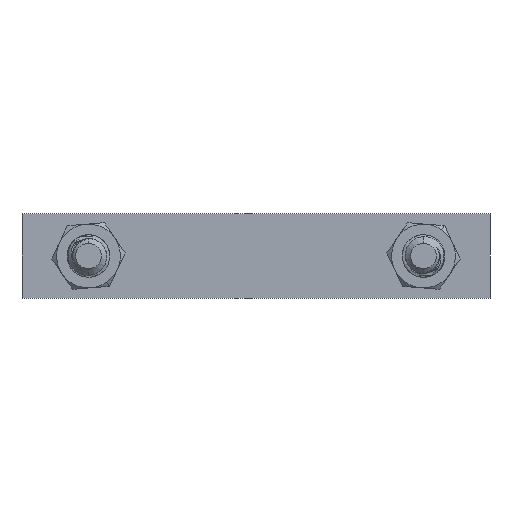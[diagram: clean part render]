
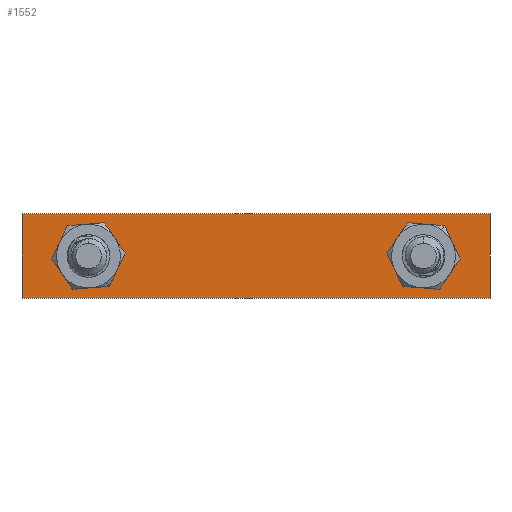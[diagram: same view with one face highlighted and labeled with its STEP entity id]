
A CAD part, front view. The second image highlights one B-rep face of the part: STEP entity #1552.
In plain terms, the highlighted planar face has unit normal (0, -1, 0).
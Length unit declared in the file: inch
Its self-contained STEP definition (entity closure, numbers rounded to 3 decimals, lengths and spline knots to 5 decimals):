
#143 = AXIS2_PLACEMENT_3D ( 'NONE', #6240, #17091, #1054 ) ;
#271 = CARTESIAN_POINT ( 'NONE',  ( 4.71875, 0.05, 0. ) ) ;
#303 = ORIENTED_EDGE ( 'NONE', *, *, #11356, .T. ) ;
#658 = ORIENTED_EDGE ( 'NONE', *, *, #2265, .T. ) ;
#1016 = ORIENTED_EDGE ( 'NONE', *, *, #16080, .T. ) ;
#1054 = DIRECTION ( 'NONE',  ( 0., 0., -1. ) ) ;
#1261 = DIRECTION ( 'NONE',  ( 0., -1., 0. ) ) ;
#1525 = VERTEX_POINT ( 'NONE', #5223 ) ;
#1552 = ADVANCED_FACE ( 'Face6', ( #5396, #6707, #10778 ), #2671, .T. ) ;
#1587 = VERTEX_POINT ( 'NONE', #5311 ) ;
#2188 = ORIENTED_EDGE ( 'NONE', *, *, #7091, .T. ) ;
#2265 = EDGE_CURVE ( 'NONE', #1587, #1525, #7836, .T. ) ;
#2286 = VERTEX_POINT ( 'NONE', #15022 ) ;
#2606 = VERTEX_POINT ( 'NONE', #3043 ) ;
#2671 = PLANE ( 'NONE',  #14956 ) ;
#2756 = LINE ( 'NONE', #5477, #7220 ) ;
#3043 = CARTESIAN_POINT ( 'NONE',  ( 4.71875, 0.05, -0.3125 ) ) ;
#3856 = ORIENTED_EDGE ( 'NONE', *, *, #11431, .F. ) ;
#3982 = DIRECTION ( 'NONE',  ( 0., 1., 0. ) ) ;
#4272 = DIRECTION ( 'NONE',  ( -1., 0., 0. ) ) ;
#4606 = CIRCLE ( 'NONE', #16428, 0.3125 ) ;
#4903 = CARTESIAN_POINT ( 'NONE',  ( 5.5, 0.05, -0.49749 ) ) ;
#4943 = VERTEX_POINT ( 'NONE', #12316 ) ;
#5223 = CARTESIAN_POINT ( 'NONE',  ( 0., 0.05, 0.49749 ) ) ;
#5311 = CARTESIAN_POINT ( 'NONE',  ( 5.5, 0.05, 0.49749 ) ) ;
#5396 = FACE_BOUND ( 'NONE', #8618, .T. ) ;
#5477 = CARTESIAN_POINT ( 'NONE',  ( 0., 0.05, 0. ) ) ;
#5513 = AXIS2_PLACEMENT_3D ( 'NONE', #12028, #9549, #8142 ) ;
#5634 = DIRECTION ( 'NONE',  ( 0., 0., 1. ) ) ;
#5892 = ORIENTED_EDGE ( 'NONE', *, *, #11636, .T. ) ;
#6240 = CARTESIAN_POINT ( 'NONE',  ( 0.78125, 0.05, 0. ) ) ;
#6510 = CARTESIAN_POINT ( 'NONE',  ( 5.5, 0.05, 0.49749 ) ) ;
#6611 = AXIS2_PLACEMENT_3D ( 'NONE', #271, #8025, #5634 ) ;
#6617 = EDGE_LOOP ( 'NONE', ( #658, #1016, #11704, #3856 ) ) ;
#6707 = FACE_OUTER_BOUND ( 'NONE', #6617, .T. ) ;
#6769 = CARTESIAN_POINT ( 'NONE',  ( 5.5, 0.05, 0.875 ) ) ;
#7091 = EDGE_CURVE ( 'Edge12', #9741, #12861, #4606, .T. ) ;
#7220 = VECTOR ( 'NONE', #7866, 39.37008 ) ;
#7483 = VECTOR ( 'NONE', #11875, 39.37008 ) ;
#7836 = LINE ( 'NONE', #6510, #10175 ) ;
#7866 = DIRECTION ( 'NONE',  ( 0., 0., -1. ) ) ;
#8025 = DIRECTION ( 'NONE',  ( 0., 1., 0. ) ) ;
#8106 = ORIENTED_EDGE ( 'NONE', *, *, #15561, .T. ) ;
#8142 = DIRECTION ( 'NONE',  ( 0., 0., 1. ) ) ;
#8618 = EDGE_LOOP ( 'NONE', ( #8106, #303 ) ) ;
#9357 = DIRECTION ( 'NONE',  ( 0., 0., -1. ) ) ;
#9488 = EDGE_LOOP ( 'NONE', ( #5892, #2188 ) ) ;
#9549 = DIRECTION ( 'NONE',  ( 0., 1., 0. ) ) ;
#9741 = VERTEX_POINT ( 'NONE', #16044 ) ;
#10068 = CARTESIAN_POINT ( 'NONE',  ( 0.78125, 0.05, -0.3125 ) ) ;
#10175 = VECTOR ( 'NONE', #4272, 39.37008 ) ;
#10273 = CIRCLE ( 'NONE', #143, 0.3125 ) ;
#10289 = LINE ( 'NONE', #4903, #7483 ) ;
#10606 = CARTESIAN_POINT ( 'NONE',  ( 0., 0.05, 0. ) ) ;
#10778 = FACE_BOUND ( 'NONE', #9488, .T. ) ;
#11356 = EDGE_CURVE ( 'Edge7', #4943, #2606, #14768, .T. ) ;
#11431 = EDGE_CURVE ( 'Edge10', #1587, #2286, #14807, .T. ) ;
#11636 = EDGE_CURVE ( 'Edge12', #12861, #9741, #10273, .T. ) ;
#11704 = ORIENTED_EDGE ( 'NONE', *, *, #14682, .T. ) ;
#11793 = VERTEX_POINT ( 'NONE', #17180 ) ;
#11875 = DIRECTION ( 'NONE',  ( 1., 0., 0. ) ) ;
#12028 = CARTESIAN_POINT ( 'NONE',  ( 4.71875, 0.05, 0. ) ) ;
#12164 = DIRECTION ( 'NONE',  ( 0., 0., -1. ) ) ;
#12316 = CARTESIAN_POINT ( 'NONE',  ( 4.71875, 0.05, 0.3125 ) ) ;
#12861 = VERTEX_POINT ( 'NONE', #10068 ) ;
#13238 = DIRECTION ( 'NONE',  ( 0., 0., -1. ) ) ;
#14493 = VECTOR ( 'NONE', #12164, 39.37008 ) ;
#14682 = EDGE_CURVE ( 'Edge13', #11793, #2286, #10289, .T. ) ;
#14768 = CIRCLE ( 'NONE', #6611, 0.3125 ) ;
#14807 = LINE ( 'NONE', #6769, #14493 ) ;
#14956 = AXIS2_PLACEMENT_3D ( 'NONE', #10606, #1261, #13238 ) ;
#15022 = CARTESIAN_POINT ( 'NONE',  ( 5.5, 0.05, -0.49749 ) ) ;
#15094 = CIRCLE ( 'NONE', #5513, 0.3125 ) ;
#15561 = EDGE_CURVE ( 'Edge7', #2606, #4943, #15094, .T. ) ;
#16044 = CARTESIAN_POINT ( 'NONE',  ( 0.78125, 0.05, 0.3125 ) ) ;
#16060 = CARTESIAN_POINT ( 'NONE',  ( 0.78125, 0.05, 0. ) ) ;
#16080 = EDGE_CURVE ( 'Edge6', #1525, #11793, #2756, .T. ) ;
#16428 = AXIS2_PLACEMENT_3D ( 'NONE', #16060, #3982, #9357 ) ;
#17091 = DIRECTION ( 'NONE',  ( 0., 1., 0. ) ) ;
#17180 = CARTESIAN_POINT ( 'NONE',  ( 0., 0.05, -0.49749 ) ) ;
